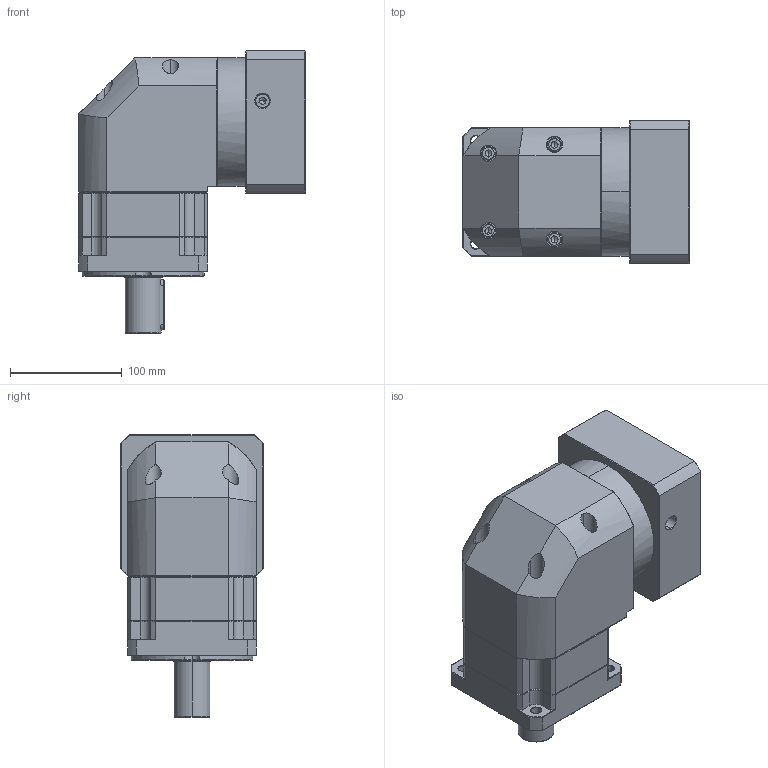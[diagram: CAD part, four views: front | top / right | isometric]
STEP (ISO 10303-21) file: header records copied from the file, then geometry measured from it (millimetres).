
FILE_DESCRIPTION (( 'STEP AP214' ), '1' );
FILE_NAME ('ZBR115A-D32-L1-P2-28-110-145-M8.step', '2023-08-26T12:37:33', ( '' ), ( '' ), 'SwSTEP 2.0', 'SolidWorks 2016', '' );
FILE_SCHEMA (( 'AUTOMOTIVE_DESIGN' ));
Length unit declared in the file: millimetre
Products named in the file (1): ZBR115A-D32-L1-P2-28-110-145-M8
Bounding box: 202.4 x 128 x 253 mm (x, y, z)
Volume: 3163269.6 mm3; surface area: 262092.4 mm2
Topology: 6 solids, 6 shells, 2382 faces, 6235 edges, 3954 vertices
Faces by surface type: plane 1140, cylinder 439, bspline 425, cone 370, torus 8
Entity records: 128366 total; most frequent: CARTESIAN_POINT 47220, ORIENTED_EDGE 12410, DIRECTION 9775, EDGE_CURVE 6205, LINE 3995, VECTOR 3995, VERTEX_POINT 3954, AXIS2_PLACEMENT_3D 2890
